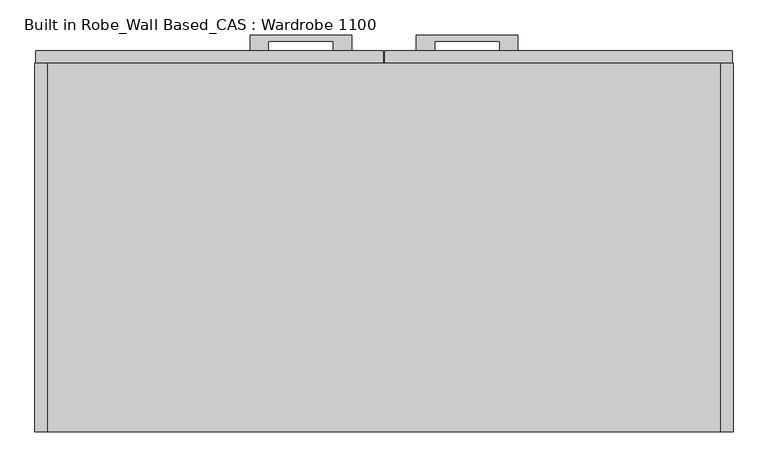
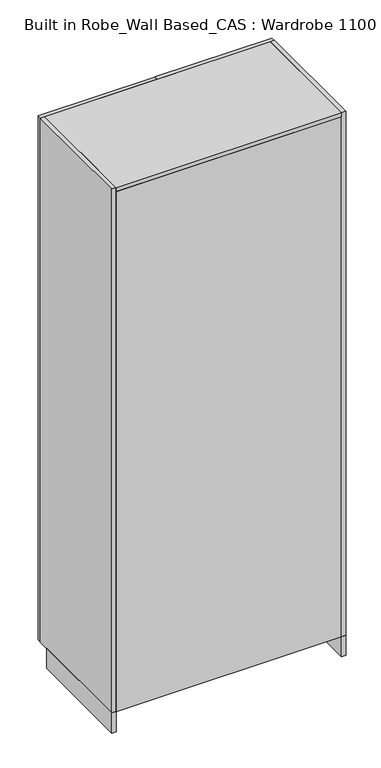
"""IFC4 building model written with IfcOpenShell, lengths in millimetres: furniture geometry, Built in Robe_Wall Based_CAS : Wardrobe 1100."""

from ifc_helpers import new_model, si_unit, point, frame, frame_2d, origin, origin_with_axes, place, context, project, spatial, polyline, circle_curve, trimmed, segment, composite_curve, outline, extrude, source, transform, mapped, element, save


def built_in_robe_wall_based_cas_wardrobe_1100_f2aae631(model_context):
    return source(origin(), model_context, "Body", "SweptSolid", [
        extrude(outline(polyline([(675.0, -11.0), (675.0, -541.0), (655.0, -541.0), (655.0, -31.0), (-405.0, -31.0), (-405.0, -541.0), (-425.0, -541.0), (-425.0, -11.0), (675.0, -11.0)])), origin_with_axes(), (0.0, 0.0, 1.0), 100.0),
        extrude(outline(polyline([(176.0, 84.0), (336.0, 84.0), (336.0, 59.0), (307.0, 59.0), (307.0, 74.0), (205.0, 74.0), (205.0, 59.0), (176.0, 59.0), (176.0, 84.0)])), frame((0.0, 0.0, 792.5), z_axis=(0.0, 0.0, 1.0), x_axis=(1.0, 0.0, 0.0)), (0.0, 0.0, 1.0), 15.0),
        extrude(outline(polyline([(674.0, 59.0), (674.0, 39.0), (126.0, 39.0), (126.0, 59.0), (674.0, 59.0)])), frame((0.0, 0.0, 100.0), z_axis=(0.0, 0.0, 1.0), x_axis=(1.0, 0.0, 0.0)), (0.0, 0.0, 1.0), 2599.0),
        extrude(outline(polyline([(74.0, 84.0), (74.0, 59.0), (45.0, 59.0), (45.0, 74.0), (-57.0, 74.0), (-57.0, 59.0), (-86.0, 59.0), (-86.0, 84.0), (74.0, 84.0)])), frame((0.0, 0.0, 792.5), z_axis=(0.0, 0.0, 1.0), x_axis=(1.0, 0.0, 0.0)), (0.0, 0.0, 1.0), 15.0),
        extrude(outline(polyline([(-424.0, 59.0), (124.0, 59.0), (124.0, 39.0), (-424.0, 39.0), (-424.0, 59.0)])), frame((0.0, 0.0, 100.0), z_axis=(0.0, 0.0, 1.0), x_axis=(1.0, 0.0, 0.0)), (0.0, 0.0, 1.0), 2599.0),
        extrude(outline(composite_curve([segment(trimmed(circle_curve(frame_2d((-231.0, 2060.0)), 37.5), [point((-193.5, 2060.0))], [point((-268.5, 2060.0))], False, "CARTESIAN"), True, "CONTINUOUS"), segment(trimmed(circle_curve(frame_2d((-231.0, 2060.0)), 37.5), [point((-268.5, 2060.0))], [point((-193.5, 2060.0))], False, "CARTESIAN"), True, "CONTINUOUS")], self_intersect=False)), frame((-405.0, 0.0, 0.0), z_axis=(1.0, 0.0, 0.0), x_axis=(0.0, 1.0, 0.0)), (0.0, 0.0, 1.0), 10.0),
        extrude(outline(composite_curve([segment(trimmed(circle_curve(frame_2d((-231.0, 2060.0)), 10.0), [point((-241.0, 2060.0))], [point((-221.0, 2060.0))], False, "CARTESIAN"), True, "CONTINUOUS"), segment(trimmed(circle_curve(frame_2d((-231.0, 2060.0)), 10.0), [point((-221.0, 2060.0))], [point((-241.0, 2060.0))], False, "CARTESIAN"), True, "CONTINUOUS")], self_intersect=False)), frame((-395.0, 0.0, 0.0), z_axis=(1.0, 0.0, 0.0), x_axis=(0.0, 1.0, 0.0)), (0.0, 0.0, 1.0), 1040.0),
        extrude(outline(composite_curve([segment(trimmed(circle_curve(frame_2d((-231.0, 2060.0)), 37.5), [point((-193.5, 2060.0))], [point((-268.5, 2060.0))], False, "CARTESIAN"), True, "CONTINUOUS"), segment(trimmed(circle_curve(frame_2d((-231.0, 2060.0)), 37.5), [point((-268.5, 2060.0))], [point((-193.5, 2060.0))], False, "CARTESIAN"), True, "CONTINUOUS")], self_intersect=False)), frame((645.0, 0.0, 0.0), z_axis=(1.0, 0.0, 0.0), x_axis=(0.0, 1.0, 0.0)), (0.0, 0.0, 1.0), 10.0),
        extrude(outline(composite_curve([segment(trimmed(circle_curve(frame_2d((-231.0, 1100.0)), 37.5), [point((-193.5, 1100.0))], [point((-268.5, 1100.0))], False, "CARTESIAN"), True, "CONTINUOUS"), segment(trimmed(circle_curve(frame_2d((-231.0, 1100.0)), 37.5), [point((-268.5, 1100.0))], [point((-193.5, 1100.0))], False, "CARTESIAN"), True, "CONTINUOUS")], self_intersect=False)), frame((-405.0, 0.0, 0.0), z_axis=(1.0, 0.0, 0.0), x_axis=(0.0, 1.0, 0.0)), (0.0, 0.0, 1.0), 10.0),
        extrude(outline(composite_curve([segment(trimmed(circle_curve(frame_2d((-231.0, 1100.0)), 10.0), [point((-241.0, 1100.0))], [point((-221.0, 1100.0))], False, "CARTESIAN"), True, "CONTINUOUS"), segment(trimmed(circle_curve(frame_2d((-231.0, 1100.0)), 10.0), [point((-221.0, 1100.0))], [point((-241.0, 1100.0))], False, "CARTESIAN"), True, "CONTINUOUS")], self_intersect=False)), frame((-395.0, 0.0, 0.0), z_axis=(1.0, 0.0, 0.0), x_axis=(0.0, 1.0, 0.0)), (0.0, 0.0, 1.0), 1040.0),
        extrude(outline(composite_curve([segment(trimmed(circle_curve(frame_2d((-231.0, 1100.0)), 37.5), [point((-193.5, 1100.0))], [point((-268.5, 1100.0))], False, "CARTESIAN"), True, "CONTINUOUS"), segment(trimmed(circle_curve(frame_2d((-231.0, 1100.0)), 37.5), [point((-268.5, 1100.0))], [point((-193.5, 1100.0))], False, "CARTESIAN"), True, "CONTINUOUS")], self_intersect=False)), frame((645.0, 0.0, 0.0), z_axis=(1.0, 0.0, 0.0), x_axis=(0.0, 1.0, 0.0)), (0.0, 0.0, 1.0), 10.0),
        extrude(outline(polyline([(-405.0, -521.0), (-405.0, 39.0), (655.0, 39.0), (655.0, -521.0), (-405.0, -521.0)])), frame((0.0, 0.0, 100.0), z_axis=(0.0, 0.0, 1.0), x_axis=(1.0, 0.0, 0.0)), (0.0, 0.0, 1.0), 20.0),
        extrude(outline(polyline([(-405.0, -541.0), (-405.0, 39.0), (655.0, 39.0), (655.0, -541.0), (-405.0, -541.0)])), frame((0.0, 0.0, 2680.0), z_axis=(0.0, 0.0, 1.0), x_axis=(1.0, 0.0, 0.0)), (0.0, 0.0, 1.0), 20.0),
        extrude(outline(polyline([(-405.0, -541.0), (-425.0, -541.0), (-425.0, 39.0), (-405.0, 39.0), (-405.0, -541.0)])), frame((0.0, 0.0, 100.0), z_axis=(0.0, 0.0, 1.0), x_axis=(1.0, 0.0, 0.0)), (0.0, 0.0, 1.0), 2600.0),
        extrude(outline(polyline([(675.0, -541.0), (655.0, -541.0), (655.0, 39.0), (675.0, 39.0), (675.0, -541.0)])), frame((0.0, 0.0, 100.0), z_axis=(0.0, 0.0, 1.0), x_axis=(1.0, 0.0, 0.0)), (0.0, 0.0, 1.0), 2600.0),
        extrude(outline(polyline([(-405.0, -521.0), (655.0, -521.0), (655.0, -541.0), (-405.0, -541.0), (-405.0, -521.0)])), frame((0.0, 0.0, 100.0), z_axis=(0.0, 0.0, 1.0), x_axis=(1.0, 0.0, 0.0)), (0.0, 0.0, 1.0), 2580.0),
    ])


if __name__ == "__main__":
    model = new_model("IFC4")
    model_context = context("Model", 3, world=origin())
    ifc_project = project(units=[si_unit("LENGTHUNIT", "METRE", prefix="MILLI")], contexts=[model_context])
    site = spatial("IfcSite", under=ifc_project)
    building = spatial("IfcBuilding", under=site)
    placement = place(None, origin())
    built_in_robe_wall_based_cas_wardrobe_1100_shape = built_in_robe_wall_based_cas_wardrobe_1100_f2aae631(model_context)
    element("IfcFurniture", 1, ObjectType="Built in Robe_Wall Based_CAS : Wardrobe 1100", at=placement, inside=building, context=model_context, shape_type="MappedRepresentation", body=[
        mapped(built_in_robe_wall_based_cas_wardrobe_1100_shape, transform((0.0, 0.0, 0.0), x_axis=(1.0, 0.0, 0.0), y_axis=(0.0, 1.0, 0.0), z_axis=(0.0, 0.0, 1.0))),
    ])
    save(model, "model.ifc")
